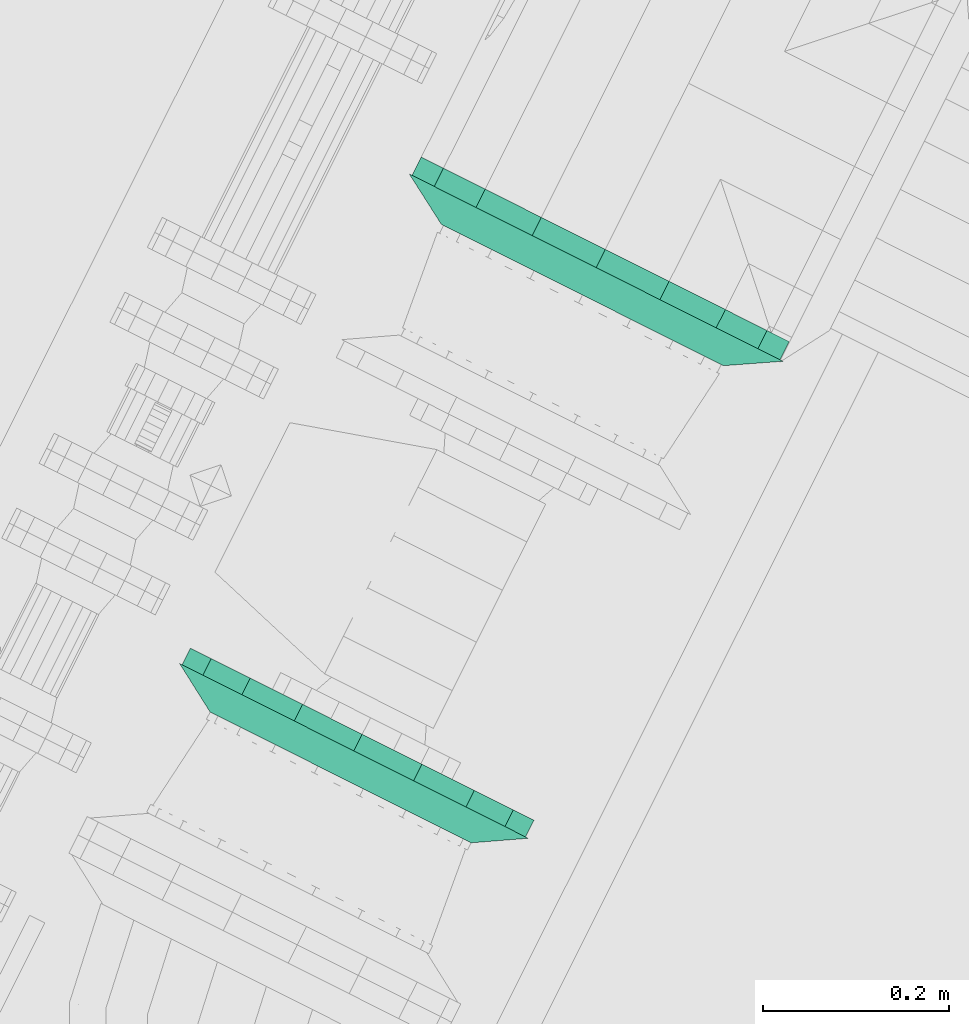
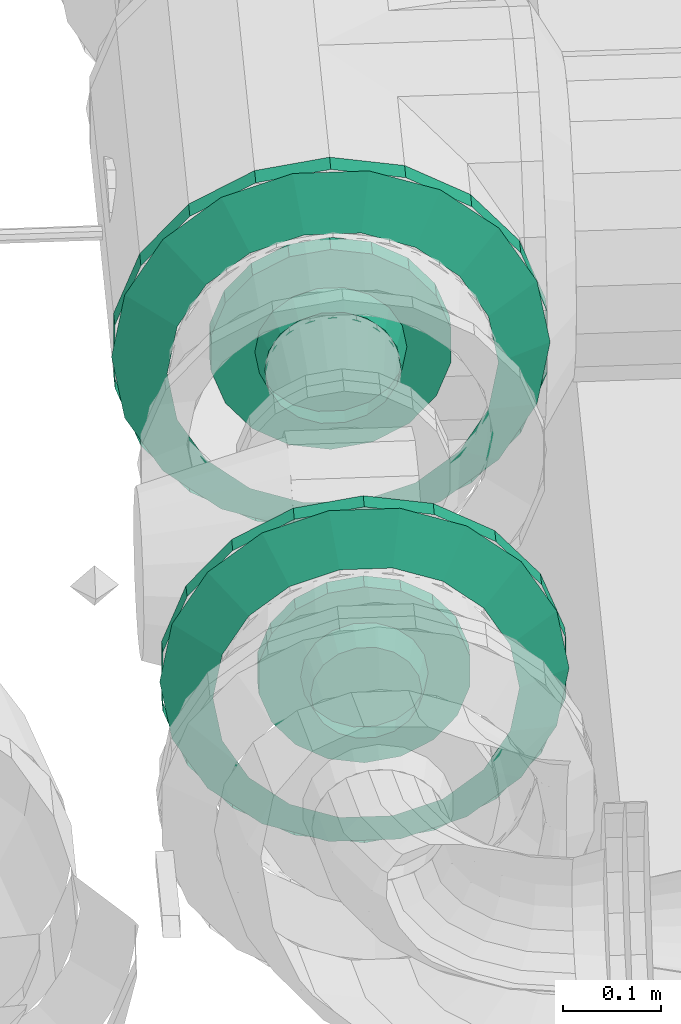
# One storey, part 72 of 206: 2 flow fittings.
"""IFC2X3 building model written with IfcOpenShell, lengths in metres."""

from ifc_helpers import new_model, si_unit, derived_unit, direction, frame, origin, place, context, subcontext, project, spatial, face_set, surface_model, source, transform, mapped, material, type_object, type_shapes, element, save


model = new_model("IFC2X3")

# Units and contexts
model_context = context("Model", 3, precision=5.2338327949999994e-05, world=origin(), true_north=direction((0.0, 1.0)))
body_context = subcontext(model_context, "Body", "Model", "MODEL_VIEW")
ifc_project = project(units=[si_unit("LENGTHUNIT", "METRE"), si_unit("AREAUNIT", "SQUARE_METRE"), si_unit("VOLUMEUNIT", "CUBIC_METRE"), si_unit("MASSUNIT", "GRAM", prefix="KILO"), si_unit("PLANEANGLEUNIT", "RADIAN"), derived_unit("THERMALTRANSMITTANCEUNIT", [(si_unit("MASSUNIT", "GRAM", prefix="KILO"), 1), (si_unit("THERMODYNAMICTEMPERATUREUNIT", "KELVIN"), -1), (si_unit("TIMEUNIT", "SECOND"), -3)])], contexts=[model_context])

# Site, building, storey
site_placement = place(None, frame((0.0, 0.0, 0.0), z_axis=(0.0, 0.0, 1.0), x_axis=(0.8939966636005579, -0.4480736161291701, 0.0)))
site = spatial("IfcSite", under=ifc_project, at=site_placement, Name="Default", CompositionType="ELEMENT")
building_placement = place(site_placement, origin())
building = spatial("IfcBuilding", under=site, at=building_placement, CompositionType="ELEMENT")
storey_placement = place(building_placement, origin())
storey = spatial("IfcBuildingStorey", under=building, at=storey_placement, Name="Erdgeschoss", CompositionType="ELEMENT", Elevation=0.0)

# Flow fittings
ifc_material = material(Name="IfcSurfaceStyle #1741")
distribution_element_type_1 = type_object("IfcDistributionElementType", Name="Flansch 340811:Flansch 340811", material=ifc_material)
shared_shape_1 = source(origin(), body_context, "Body", "SurfaceModel", [
    surface_model("IfcFaceBasedSurfaceModel", [(25.43985543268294, 6.45896109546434, 2.4790000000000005), (25.397102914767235, 6.45896109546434, 2.4714615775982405), (25.397102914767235, 6.43696109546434, 2.4714615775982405), (25.43985543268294, 6.43696109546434, 2.4790000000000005), (25.359506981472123, 6.45896109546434, 2.449755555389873), (25.359506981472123, 6.43696109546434, 2.449755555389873), (25.33160225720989, 6.45896109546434, 2.416500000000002), (25.33160225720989, 6.43696109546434, 2.416500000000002), (25.316754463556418, 6.45896109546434, 2.375706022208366), (25.316754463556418, 6.43696109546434, 2.375706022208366), (25.316754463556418, 6.45896109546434, 2.3322939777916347), (25.316754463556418, 6.43696109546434, 2.3322939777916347), (25.331602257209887, 6.45896109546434, 2.291500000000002), (25.331602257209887, 6.43696109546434, 2.291500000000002), (25.359506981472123, 6.45896109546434, 2.2582444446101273), (25.359506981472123, 6.43696109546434, 2.2582444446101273), (25.397102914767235, 6.45896109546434, 2.236538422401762), (25.397102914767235, 6.43696109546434, 2.236538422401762), (25.43985543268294, 6.45896109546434, 2.229), (25.43985543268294, 6.43696109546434, 2.229), (25.482607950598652, 6.45896109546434, 2.236538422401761), (25.482607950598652, 6.43696109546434, 2.236538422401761), (25.52020388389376, 6.45896109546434, 2.2582444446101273), (25.52020388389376, 6.43696109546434, 2.2582444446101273), (25.548108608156, 6.45896109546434, 2.291499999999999), (25.548108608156, 6.43696109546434, 2.291499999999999), (25.56295640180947, 6.45896109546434, 2.3322939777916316), (25.56295640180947, 6.43696109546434, 2.3322939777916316), (25.56295640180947, 6.45896109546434, 2.3757060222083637), (25.56295640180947, 6.43696109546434, 2.3757060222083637), (25.548108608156, 6.45896109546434, 2.416499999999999), (25.548108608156, 6.43696109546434, 2.416499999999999), (25.520203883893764, 6.45896109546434, 2.4497555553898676), (25.520203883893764, 6.43696109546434, 2.4497555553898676), (25.482607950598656, 6.45896109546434, 2.4714615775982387), (25.482607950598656, 6.43696109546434, 2.4714615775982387), (25.43985543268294, 6.43696109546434, 2.3540000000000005), (25.36185543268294, 6.43696109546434, 2.3540000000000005), (25.366559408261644, 6.43696109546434, 2.3273224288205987), (25.37421790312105, 6.403961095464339, 2.330109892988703), (25.370005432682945, 6.4039610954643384, 2.3539999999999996), (25.38010396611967, 6.43696109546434, 2.3038625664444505), (25.386347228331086, 6.403961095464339, 2.3091012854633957), (25.400855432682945, 6.43696109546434, 2.286450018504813), (25.404930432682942, 6.403961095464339, 2.2935081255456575), (25.426310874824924, 6.43696109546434, 2.277184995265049), (25.427726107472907, 6.403961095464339, 2.2852111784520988), (25.453399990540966, 6.43696109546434, 2.277184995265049), (25.45198475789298, 6.403961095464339, 2.2852111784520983), (25.478855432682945, 6.43696109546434, 2.2864500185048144), (25.474780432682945, 6.403961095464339, 2.2935081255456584), (25.499606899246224, 6.43696109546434, 2.303862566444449), (25.493363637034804, 6.403961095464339, 2.3091012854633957), (25.513151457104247, 6.43696109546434, 2.327322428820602), (25.505492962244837, 6.403961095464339, 2.330109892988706), (25.517855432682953, 6.43696109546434, 2.3540000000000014), (25.509705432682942, 6.403961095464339, 2.3540000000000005), (25.513151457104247, 6.43696109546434, 2.3806775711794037), (25.505492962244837, 6.403961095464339, 2.3778901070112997), (25.499606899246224, 6.43696109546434, 2.4041374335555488), (25.493363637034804, 6.403961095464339, 2.398898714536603), (25.478855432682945, 6.43696109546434, 2.4215499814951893), (25.474780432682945, 6.403961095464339, 2.4144918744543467), (25.453399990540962, 6.43696109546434, 2.4308150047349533), (25.451984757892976, 6.403961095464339, 2.4227888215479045), (25.426310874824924, 6.43696109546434, 2.4308150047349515), (25.427726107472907, 6.403961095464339, 2.4227888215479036), (25.400855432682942, 6.43696109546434, 2.421549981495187), (25.404930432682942, 6.403961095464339, 2.414491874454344), (25.38010396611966, 6.43696109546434, 2.4041374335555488), (25.386347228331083, 6.403961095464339, 2.3988987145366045), (25.366559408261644, 6.43696109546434, 2.3806775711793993), (25.374217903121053, 6.403961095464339, 2.377890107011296), (25.439855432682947, 6.45896109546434, 2.5789999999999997), (25.362900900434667, 6.45896109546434, 2.5654308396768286), (25.362900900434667, 6.43696109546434, 2.5654308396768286), (25.43985543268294, 6.43696109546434, 2.578999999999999), (25.29522822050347, 6.45896109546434, 2.5263599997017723), (25.29522822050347, 6.43696109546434, 2.5263599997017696), (25.244999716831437, 6.45896109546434, 2.466500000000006), (25.244999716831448, 6.43696109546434, 2.4665000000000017), (25.218273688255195, 6.45896109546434, 2.393070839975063), (25.2182736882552, 6.43696109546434, 2.393070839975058), (25.218273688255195, 6.45896109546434, 2.3149291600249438), (25.2182736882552, 6.43696109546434, 2.3149291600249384), (25.24499971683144, 6.45896109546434, 2.241500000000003), (25.24499971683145, 6.43696109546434, 2.241499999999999), (25.29522822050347, 6.45896109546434, 2.1816400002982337), (25.295228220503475, 6.43696109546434, 2.18164000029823), (25.362900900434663, 6.45896109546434, 2.142569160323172), (25.362900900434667, 6.43696109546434, 2.142569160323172), (25.439855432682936, 6.45896109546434, 2.128999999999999), (25.43985543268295, 6.43696109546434, 2.1290000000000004), (25.516809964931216, 6.45896109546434, 2.1425691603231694), (25.516809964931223, 6.43696109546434, 2.1425691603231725), (25.58448264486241, 6.45896109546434, 2.1816400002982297), (25.584482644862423, 6.43696109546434, 2.1816400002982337), (25.634711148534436, 6.45896109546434, 2.241499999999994), (25.634711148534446, 6.43696109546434, 2.2415000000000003), (25.66143717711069, 6.45896109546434, 2.314929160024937), (25.66143717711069, 6.43696109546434, 2.3149291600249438), (25.66143717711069, 6.45896109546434, 2.3930708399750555), (25.66143717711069, 6.43696109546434, 2.393070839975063), (25.634711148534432, 6.45896109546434, 2.466499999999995), (25.63471114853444, 6.43696109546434, 2.4665000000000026), (25.58448264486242, 6.45896109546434, 2.5263599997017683), (25.584482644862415, 6.43696109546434, 2.526359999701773), (25.51680996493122, 6.45896109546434, 2.565430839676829), (25.516809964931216, 6.43696109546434, 2.5654308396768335), (25.214855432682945, 6.43696109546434, 2.353999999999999), (25.228424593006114, 6.43696109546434, 2.277045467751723), (25.280248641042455, 6.403961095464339, 2.295907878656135), (25.270005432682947, 6.4039610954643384, 2.3539999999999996), (25.26749543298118, 6.43696109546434, 2.209372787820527), (25.30974278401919, 6.403961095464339, 2.244822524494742), (25.32735543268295, 6.43696109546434, 2.1591442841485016), (25.354930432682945, 6.403961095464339, 2.206905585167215), (25.400784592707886, 6.43696109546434, 2.132418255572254), (25.410361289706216, 6.403961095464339, 2.1867304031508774), (25.478926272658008, 6.43696109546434, 2.132418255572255), (25.46934957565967, 6.403961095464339, 2.1867304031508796), (25.552355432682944, 6.436961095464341, 2.1591442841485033), (25.524780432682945, 6.40396109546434, 2.206905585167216), (25.612215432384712, 6.436961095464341, 2.209372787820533), (25.569968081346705, 6.40396109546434, 2.244822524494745), (25.651286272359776, 6.43696109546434, 2.2770454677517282), (25.599462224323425, 6.403961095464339, 2.2959078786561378), (25.66485543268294, 6.4369610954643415, 2.354000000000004), (25.609705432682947, 6.403961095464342, 2.354000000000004), (25.651286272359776, 6.43696109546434, 2.4309545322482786), (25.599462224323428, 6.403961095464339, 2.4120921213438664), (25.612215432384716, 6.43696109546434, 2.4986272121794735), (25.5699680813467, 6.403961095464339, 2.463177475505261), (25.55235543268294, 6.43696109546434, 2.5488557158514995), (25.524780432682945, 6.403961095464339, 2.5010944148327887), (25.478926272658, 6.436961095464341, 2.575581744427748), (25.46934957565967, 6.40396109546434, 2.521269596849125), (25.400784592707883, 6.436961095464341, 2.5755817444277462), (25.410361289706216, 6.40396109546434, 2.5212695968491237), (25.32735543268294, 6.436961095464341, 2.548855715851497), (25.354930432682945, 6.40396109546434, 2.5010944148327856), (25.267495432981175, 6.43696109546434, 2.498627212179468), (25.309742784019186, 6.403961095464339, 2.463177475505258), (25.22842459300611, 6.43696109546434, 2.4309545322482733), (25.28024864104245, 6.403961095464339, 2.4120921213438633)], [face_set([[[0, 1, 2, 3]], [[1, 4, 5, 2]], [[4, 6, 7, 5]], [[6, 8, 9, 7]], [[8, 10, 11, 9]], [[10, 12, 13, 11]], [[12, 14, 15, 13]], [[14, 16, 17, 15]], [[16, 18, 19, 17]], [[18, 20, 21, 19]], [[20, 22, 23, 21]], [[22, 24, 25, 23]], [[24, 26, 27, 25]], [[26, 28, 29, 27]], [[28, 30, 31, 29]], [[30, 32, 33, 31]], [[32, 34, 35, 33]], [[34, 0, 3, 35]], [[36, 35, 3]], [[36, 33, 35]], [[36, 31, 33]], [[36, 29, 31]], [[36, 27, 29]], [[36, 25, 27]], [[36, 23, 25]], [[36, 21, 23]], [[36, 19, 21]], [[36, 17, 19]], [[36, 15, 17]], [[36, 13, 15]], [[36, 11, 13]], [[36, 9, 11]], [[36, 7, 9]], [[36, 5, 7]], [[36, 2, 5]], [[36, 3, 2]], [[37, 38, 39, 40]], [[38, 41, 42, 39]], [[41, 43, 44, 42]], [[43, 45, 46, 44]], [[45, 47, 48, 46]], [[47, 49, 50, 48]], [[49, 51, 52, 50]], [[51, 53, 54, 52]], [[53, 55, 56, 54]], [[55, 57, 58, 56]], [[57, 59, 60, 58]], [[59, 61, 62, 60]], [[61, 63, 64, 62]], [[63, 65, 66, 64]], [[65, 67, 68, 66]], [[67, 69, 70, 68]], [[69, 71, 72, 70]], [[71, 37, 40, 72]], [[73, 74, 75, 76]], [[74, 77, 78, 75]], [[77, 79, 80, 78]], [[79, 81, 82, 80]], [[81, 83, 84, 82]], [[83, 85, 86, 84]], [[85, 87, 88, 86]], [[87, 89, 90, 88]], [[89, 91, 92, 90]], [[91, 93, 94, 92]], [[93, 95, 96, 94]], [[95, 97, 98, 96]], [[97, 99, 100, 98]], [[99, 101, 102, 100]], [[101, 103, 104, 102]], [[103, 105, 106, 104]], [[105, 107, 108, 106]], [[107, 73, 76, 108]], [[109, 110, 111, 112]], [[110, 113, 114, 111]], [[113, 115, 116, 114]], [[115, 117, 118, 116]], [[117, 119, 120, 118]], [[119, 121, 122, 120]], [[121, 123, 124, 122]], [[123, 125, 126, 124]], [[125, 127, 128, 126]], [[127, 129, 130, 128]], [[129, 131, 132, 130]], [[131, 133, 134, 132]], [[133, 135, 136, 134]], [[135, 137, 138, 136]], [[137, 139, 140, 138]], [[139, 141, 142, 140]], [[141, 143, 144, 142]], [[143, 109, 112, 144]]])]),
])
type_shapes(distribution_element_type_1, [shared_shape_1])
flow_fitting_1_placement = place(storey_placement, origin())
element("IfcFlowFitting", 1, at=flow_fitting_1_placement, inside=storey, type_object=distribution_element_type_1, material=ifc_material, Name="Flansch", ObjectType="Flansch", context=body_context, shape_type="MappedRepresentation", body=[
    mapped(shared_shape_1, transform((0.0, 0.0, 0.0), scale=1.0)),
])
distribution_element_type_2 = type_object("IfcDistributionElementType", Name="Flansch 340857:Flansch 340857", material=ifc_material)
shared_shape_2 = source(origin(), body_context, "Body", "SurfaceModel", [
    surface_model("IfcFaceBasedSurfaceModel", [(25.43985543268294, 5.874961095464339, 2.4639999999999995), (25.402233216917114, 5.874961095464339, 2.457366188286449), (25.402233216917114, 5.85496109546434, 2.457366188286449), (25.43985543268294, 5.85496109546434, 2.4640000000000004), (25.369148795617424, 5.874961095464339, 2.4382648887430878), (25.369148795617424, 5.85496109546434, 2.4382648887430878), (25.344592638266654, 5.874961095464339, 2.4089999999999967), (25.344592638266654, 5.85496109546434, 2.4089999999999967), (25.3315265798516, 5.874961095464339, 2.373101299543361), (25.3315265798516, 5.85496109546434, 2.373101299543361), (25.3315265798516, 5.874961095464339, 2.3348987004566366), (25.3315265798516, 5.85496109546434, 2.3348987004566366), (25.344592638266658, 5.874961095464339, 2.298999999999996), (25.344592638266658, 5.85496109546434, 2.298999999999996), (25.369148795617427, 5.874961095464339, 2.2697351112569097), (25.369148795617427, 5.85496109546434, 2.2697351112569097), (25.40223321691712, 5.874961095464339, 2.2506338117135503), (25.40223321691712, 5.85496109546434, 2.2506338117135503), (25.43985543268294, 5.874961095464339, 2.243999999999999), (25.43985543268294, 5.85496109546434, 2.243999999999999), (25.477477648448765, 5.874961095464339, 2.25063381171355), (25.477477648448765, 5.85496109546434, 2.25063381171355), (25.510562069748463, 5.874961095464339, 2.269735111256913), (25.510562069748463, 5.85496109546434, 2.269735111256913), (25.535118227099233, 5.874961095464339, 2.2989999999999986), (25.535118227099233, 5.85496109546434, 2.2989999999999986), (25.54818428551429, 5.874961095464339, 2.3348987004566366), (25.54818428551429, 5.85496109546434, 2.3348987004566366), (25.54818428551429, 5.874961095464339, 2.373101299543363), (25.54818428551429, 5.85496109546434, 2.373101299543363), (25.535118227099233, 5.874961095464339, 2.4090000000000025), (25.535118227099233, 5.85496109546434, 2.4090000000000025), (25.510562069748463, 5.874961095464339, 2.43826488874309), (25.510562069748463, 5.85496109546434, 2.43826488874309), (25.477477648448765, 5.874961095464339, 2.4573661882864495), (25.477477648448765, 5.85496109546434, 2.4573661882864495), (25.43985543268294, 5.85496109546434, 2.354), (25.374355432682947, 5.85496109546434, 2.353999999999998), (25.37830556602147, 5.85496109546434, 2.3315976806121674), (25.38615199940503, 5.82296109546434, 2.334453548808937), (25.38270543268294, 5.822961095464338, 2.354000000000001), (25.389679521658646, 5.85496109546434, 2.3118974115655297), (25.396075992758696, 5.82296109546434, 2.3172646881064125), (25.407105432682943, 5.85496109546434, 2.29727533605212), (25.41128043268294, 5.82296109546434, 2.304506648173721), (25.428481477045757, 5.85496109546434, 2.2894950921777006), (25.42993143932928, 5.82296109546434, 2.2977182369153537), (25.451229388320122, 5.85496109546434, 2.2894950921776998), (25.449779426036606, 5.82296109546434, 2.2977182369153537), (25.472605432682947, 5.85496109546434, 2.297275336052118), (25.468430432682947, 5.82296109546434, 2.3045066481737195), (25.490031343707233, 5.85496109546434, 2.311897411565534), (25.483634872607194, 5.82296109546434, 2.3172646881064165), (25.501405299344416, 5.85496109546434, 2.3315976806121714), (25.49355886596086, 5.82296109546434, 2.3344535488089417), (25.50535543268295, 5.854961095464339, 2.3539999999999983), (25.497005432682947, 5.822961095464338, 2.3539999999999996), (25.50140529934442, 5.85496109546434, 2.376402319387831), (25.49355886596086, 5.82296109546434, 2.3735464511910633), (25.490031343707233, 5.85496109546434, 2.3961025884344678), (25.483634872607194, 5.82296109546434, 2.3907353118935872), (25.472605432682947, 5.85496109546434, 2.410724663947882), (25.46843043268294, 5.82296109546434, 2.403493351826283), (25.451229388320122, 5.85496109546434, 2.4185049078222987), (25.449779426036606, 5.82296109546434, 2.410281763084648), (25.428481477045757, 5.85496109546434, 2.4185049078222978), (25.42993143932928, 5.82296109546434, 2.4102817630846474), (25.407105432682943, 5.85496109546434, 2.41072466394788), (25.411280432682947, 5.82296109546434, 2.4034933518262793), (25.389679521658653, 5.85496109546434, 2.396102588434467), (25.396075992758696, 5.82296109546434, 2.390735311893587), (25.378305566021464, 5.85496109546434, 2.3764023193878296), (25.38615199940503, 5.82296109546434, 2.373546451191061), (25.439855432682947, 5.874961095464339, 2.5639999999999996), (25.368031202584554, 5.874961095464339, 2.551335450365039), (25.368031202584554, 5.85496109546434, 2.551335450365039), (25.43985543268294, 5.854961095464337, 2.563999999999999), (25.30487003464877, 5.874961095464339, 2.514869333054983), (25.30487003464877, 5.85496109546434, 2.514869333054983), (25.257990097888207, 5.874961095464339, 2.458999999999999), (25.257990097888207, 5.85496109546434, 2.458999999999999), (25.23304580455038, 5.874961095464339, 2.390466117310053), (25.23304580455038, 5.85496109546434, 2.390466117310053), (25.23304580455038, 5.874961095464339, 2.3175338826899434), (25.23304580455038, 5.85496109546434, 2.3175338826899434), (25.257990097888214, 5.874961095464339, 2.2489999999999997), (25.257990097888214, 5.85496109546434, 2.2489999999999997), (25.304870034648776, 5.874961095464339, 2.1931306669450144), (25.304870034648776, 5.85496109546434, 2.1931306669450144), (25.368031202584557, 5.874961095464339, 2.156664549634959), (25.368031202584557, 5.85496109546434, 2.156664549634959), (25.43985543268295, 5.874961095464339, 2.1439999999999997), (25.43985543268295, 5.85496109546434, 2.1439999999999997), (25.511679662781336, 5.874961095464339, 2.1566645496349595), (25.511679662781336, 5.85496109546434, 2.1566645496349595), (25.574840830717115, 5.874961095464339, 2.193130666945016), (25.574840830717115, 5.85496109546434, 2.193130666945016), (25.621720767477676, 5.874961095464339, 2.2490000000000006), (25.621720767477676, 5.85496109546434, 2.2490000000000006), (25.646665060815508, 5.874961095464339, 2.317533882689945), (25.646665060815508, 5.85496109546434, 2.317533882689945), (25.646665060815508, 5.874961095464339, 2.390466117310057), (25.646665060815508, 5.85496109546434, 2.390466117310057), (25.621720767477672, 5.874961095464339, 2.4590000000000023), (25.621720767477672, 5.85496109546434, 2.4590000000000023), (25.574840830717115, 5.874961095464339, 2.514869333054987), (25.574840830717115, 5.85496109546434, 2.514869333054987), (25.51167966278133, 5.874961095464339, 2.551335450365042), (25.51167966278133, 5.85496109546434, 2.551335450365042), (25.229855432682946, 5.85496109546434, 2.3539999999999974), (25.2425199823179, 5.85496109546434, 2.282175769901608), (25.292182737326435, 5.82296109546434, 2.30025153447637), (25.282705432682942, 5.822961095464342, 2.3539999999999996), (25.27898609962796, 5.85496109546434, 2.219014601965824), (25.319471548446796, 5.82296109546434, 2.25298592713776), (25.334855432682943, 5.85496109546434, 2.172134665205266), (25.361280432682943, 5.82296109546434, 2.217904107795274), (25.40338931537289, 5.85496109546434, 2.1471903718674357), (25.41256662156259, 5.82296109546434, 2.199237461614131), (25.476321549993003, 5.85496109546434, 2.147190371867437), (25.467144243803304, 5.82296109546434, 2.1992374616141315), (25.544855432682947, 5.85496109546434, 2.172134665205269), (25.518430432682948, 5.82296109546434, 2.2179041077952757), (25.60072476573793, 5.854961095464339, 2.219014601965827), (25.56023931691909, 5.822961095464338, 2.2529859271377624), (25.63719088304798, 5.854961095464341, 2.2821757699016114), (25.58752812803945, 5.822961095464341, 2.300251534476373), (25.649855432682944, 5.85496109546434, 2.354000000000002), (25.59700543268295, 5.82296109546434, 2.354000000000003), (25.63719088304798, 5.854961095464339, 2.425824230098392), (25.58752812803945, 5.822961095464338, 2.407748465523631), (25.600724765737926, 5.854961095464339, 2.488985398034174), (25.56023931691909, 5.822961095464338, 2.4550140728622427), (25.54485543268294, 5.854961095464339, 2.5358653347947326), (25.518430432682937, 5.822961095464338, 2.490095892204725), (25.476321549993, 5.85496109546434, 2.560809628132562), (25.467144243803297, 5.82296109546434, 2.5087625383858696), (25.403389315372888, 5.85496109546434, 2.5608096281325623), (25.412566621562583, 5.82296109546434, 2.50876253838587), (25.334855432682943, 5.85496109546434, 2.53586533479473), (25.361280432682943, 5.82296109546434, 2.490095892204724), (25.278986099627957, 5.85496109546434, 2.488985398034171), (25.3194715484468, 5.82296109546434, 2.4550140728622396), (25.2425199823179, 5.85496109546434, 2.4258242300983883), (25.29218273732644, 5.82296109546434, 2.4077484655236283)], [face_set([[[0, 1, 2, 3]], [[1, 4, 5, 2]], [[4, 6, 7, 5]], [[6, 8, 9, 7]], [[8, 10, 11, 9]], [[10, 12, 13, 11]], [[12, 14, 15, 13]], [[14, 16, 17, 15]], [[16, 18, 19, 17]], [[18, 20, 21, 19]], [[20, 22, 23, 21]], [[22, 24, 25, 23]], [[24, 26, 27, 25]], [[26, 28, 29, 27]], [[28, 30, 31, 29]], [[30, 32, 33, 31]], [[32, 34, 35, 33]], [[34, 0, 3, 35]], [[36, 35, 3]], [[36, 33, 35]], [[36, 31, 33]], [[36, 29, 31]], [[36, 27, 29]], [[36, 25, 27]], [[36, 23, 25]], [[36, 21, 23]], [[36, 19, 21]], [[36, 17, 19]], [[36, 15, 17]], [[36, 13, 15]], [[36, 11, 13]], [[36, 9, 11]], [[36, 7, 9]], [[36, 5, 7]], [[36, 2, 5]], [[36, 3, 2]], [[37, 38, 39, 40]], [[38, 41, 42, 39]], [[41, 43, 44, 42]], [[43, 45, 46, 44]], [[45, 47, 48, 46]], [[47, 49, 50, 48]], [[49, 51, 52, 50]], [[51, 53, 54, 52]], [[53, 55, 56, 54]], [[55, 57, 58, 56]], [[57, 59, 60, 58]], [[59, 61, 62, 60]], [[61, 63, 64, 62]], [[63, 65, 66, 64]], [[65, 67, 68, 66]], [[67, 69, 70, 68]], [[69, 71, 72, 70]], [[71, 37, 40, 72]], [[73, 74, 75, 76]], [[74, 77, 78, 75]], [[77, 79, 80, 78]], [[79, 81, 82, 80]], [[81, 83, 84, 82]], [[83, 85, 86, 84]], [[85, 87, 88, 86]], [[87, 89, 90, 88]], [[89, 91, 92, 90]], [[91, 93, 94, 92]], [[93, 95, 96, 94]], [[95, 97, 98, 96]], [[97, 99, 100, 98]], [[99, 101, 102, 100]], [[101, 103, 104, 102]], [[103, 105, 106, 104]], [[105, 107, 108, 106]], [[107, 73, 76, 108]], [[109, 110, 111, 112]], [[110, 113, 114, 111]], [[113, 115, 116, 114]], [[115, 117, 118, 116]], [[117, 119, 120, 118]], [[119, 121, 122, 120]], [[121, 123, 124, 122]], [[123, 125, 126, 124]], [[125, 127, 128, 126]], [[127, 129, 130, 128]], [[129, 131, 132, 130]], [[131, 133, 134, 132]], [[133, 135, 136, 134]], [[135, 137, 138, 136]], [[137, 139, 140, 138]], [[139, 141, 142, 140]], [[141, 143, 144, 142]], [[143, 109, 112, 144]]])]),
])
type_shapes(distribution_element_type_2, [shared_shape_2])
flow_fitting_2_placement = place(storey_placement, origin())
element("IfcFlowFitting", 2, at=flow_fitting_2_placement, inside=storey, type_object=distribution_element_type_2, material=ifc_material, Name="Flansch", ObjectType="Flansch", context=body_context, shape_type="MappedRepresentation", body=[
    mapped(shared_shape_2, transform((0.0, 0.0, 0.0), scale=1.0)),
])

save(model, "model.ifc")
